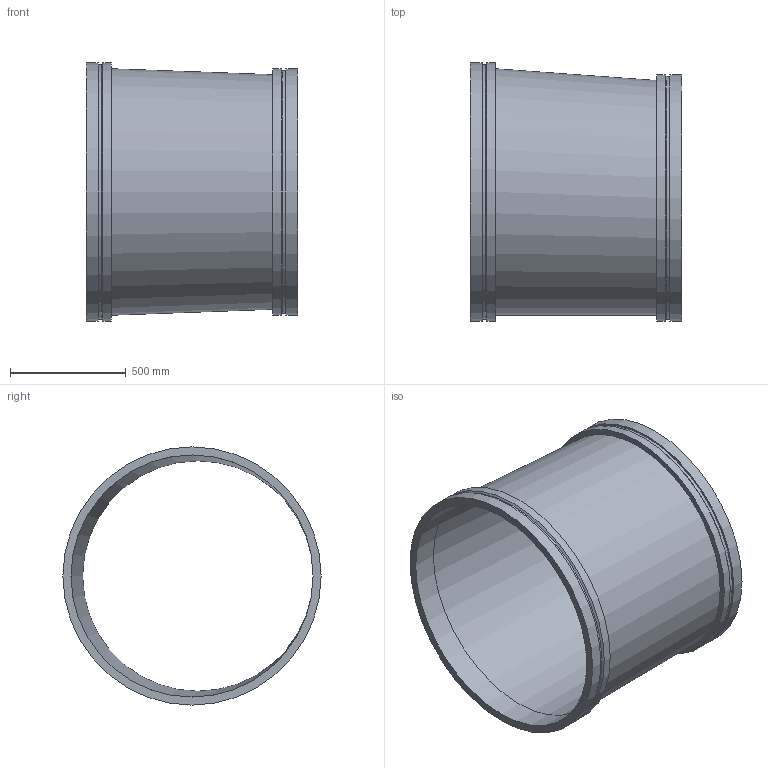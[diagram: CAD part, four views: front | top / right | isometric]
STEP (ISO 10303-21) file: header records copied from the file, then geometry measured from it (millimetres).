
FILE_DESCRIPTION(/* description */ ('VIC REDUCER ECCENTRIC No W51-VR','CAx-IF Rec.Pracs.---Representation and Presentation of Product Manufacturing Information (PMI)---4.0---2014-10-13'),/* implementation_level */ '2;1');
FILE_NAME(/* name */ 'C:\Users\kkamble\AppData\Roaming\Autodesk\ApplicationPlugins\Back Up\Victaulic_Vic-Ring_Reducer Eccentric_No W51 VR (AGR)\Victaulic_Vic-Ring_Reducer Eccentric_No W51 VR (AGR)_42.0x40.0 (1050x1000).stp',/* time_stamp */ '2020-09-10T11:51:19+05:00',/* author */ ('CONSTRUCTION PIPING SERVICES'),/* organization */ ('Victaulic'),/* preprocessor_version */ 'ST-DEVELOPER v17.2',/* originating_system */ 'Autodesk Inventor 2019',/* authorisation */ '');
FILE_SCHEMA (('AP242_MANAGED_MODEL_BASED_3D_ENGINEERING_MIM_LF { 1 0 10303 442 1 1 4 }'));
Length unit declared in the file: inch
Products named in the file (1): W51 VR-42.0x40.0
Bounding box: 914.4 x 1117.6 x 1117.6 mm (x, y, z)
Volume: 45737311.1 mm3; surface area: 6447288 mm2
Topology: 1 solids, 1 shells, 18 faces, 49 edges, 37 vertices
Faces by surface type: cylinder 8, plane 6, cone 2, bspline 2
Full cylindrical faces by diameter (mm): 996.95 x1, 1047.75 x1, 1050.925 x1, 1066.8 x2, 1101.725 x1, 1117.6 x2
Entity records: 792 total; most frequent: CARTESIAN_POINT 158, DIRECTION 144, ORIENTED_EDGE 98, AXIS2_PLACEMENT_3D 67, EDGE_CURVE 49, CIRCLE 37, VERTEX_POINT 37, EDGE_LOOP 24
